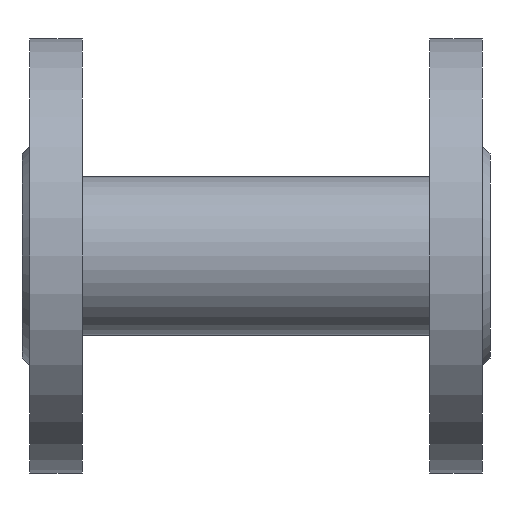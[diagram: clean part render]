
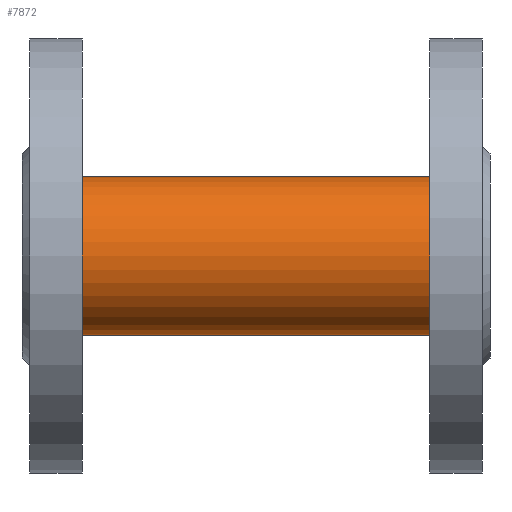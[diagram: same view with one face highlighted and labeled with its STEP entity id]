
A CAD part, front view. The second image highlights one B-rep face of the part: STEP entity #7872.
In plain terms, the highlighted cylindrical face has radius 21 mm (diameter 42 mm), a full revolution.
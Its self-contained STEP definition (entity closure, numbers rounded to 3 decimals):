
#2675=LINE('',#36084,#4655);
#2676=LINE('',#36090,#4656);
#4655=VECTOR('',#29485,1.);
#4656=VECTOR('',#29490,1.);
#6874=ELLIPSE('',#27261,29.698,21.);
#6875=ELLIPSE('',#27262,29.698,21.);
#6876=ELLIPSE('',#27263,29.698,21.);
#6877=ELLIPSE('',#27264,29.698,21.);
#7422=CYLINDRICAL_SURFACE('',#27267,21.);
#7872=ADVANCED_FACE('',(#10300,#10301,#10302),#7422,.T.);
#10300=FACE_BOUND('',#11118,.T.);
#10301=FACE_BOUND('',#11119,.T.);
#10302=FACE_BOUND('',#11120,.T.);
#11118=EDGE_LOOP('',(#13162,#13163,#13164,#13165,#13166,#13167));
#11119=EDGE_LOOP('',(#13168));
#11120=EDGE_LOOP('',(#13169));
#13162=ORIENTED_EDGE('',*,*,#22786,.T.);
#13163=ORIENTED_EDGE('',*,*,#22787,.T.);
#13164=ORIENTED_EDGE('',*,*,#22788,.T.);
#13165=ORIENTED_EDGE('',*,*,#22789,.T.);
#13166=ORIENTED_EDGE('',*,*,#22790,.T.);
#13167=ORIENTED_EDGE('',*,*,#22791,.T.);
#13168=ORIENTED_EDGE('',*,*,#22792,.F.);
#13169=ORIENTED_EDGE('',*,*,#22793,.F.);
#20344=VERTEX_POINT('',#36080);
#20345=VERTEX_POINT('',#36081);
#20346=VERTEX_POINT('',#36083);
#20347=VERTEX_POINT('',#36085);
#20348=VERTEX_POINT('',#36087);
#20349=VERTEX_POINT('',#36089);
#20350=VERTEX_POINT('',#36092);
#20351=VERTEX_POINT('',#36094);
#22786=EDGE_CURVE('',#20344,#20345,#6874,.T.);
#22787=EDGE_CURVE('',#20345,#20346,#6875,.T.);
#22788=EDGE_CURVE('',#20346,#20347,#2675,.T.);
#22789=EDGE_CURVE('',#20347,#20348,#6876,.T.);
#22790=EDGE_CURVE('',#20348,#20349,#6877,.T.);
#22791=EDGE_CURVE('',#20349,#20344,#2676,.T.);
#22792=EDGE_CURVE('',#20350,#20350,#26384,.T.);
#22793=EDGE_CURVE('',#20351,#20351,#26385,.T.);
#26384=CIRCLE('',#27265,21.);
#26385=CIRCLE('',#27266,21.);
#27261=AXIS2_PLACEMENT_3D('',#36079,#29481,#29482);
#27262=AXIS2_PLACEMENT_3D('',#36082,#29483,#29484);
#27263=AXIS2_PLACEMENT_3D('',#36086,#29486,#29487);
#27264=AXIS2_PLACEMENT_3D('',#36088,#29488,#29489);
#27265=AXIS2_PLACEMENT_3D('',#36091,#29491,#29492);
#27266=AXIS2_PLACEMENT_3D('',#36093,#29493,#29494);
#27267=AXIS2_PLACEMENT_3D('',#36095,#29495,#29496);
#29481=DIRECTION('',(-0.707,-0.707,0.));
#29482=DIRECTION('',(-0.707,0.707,0.));
#29483=DIRECTION('',(-0.707,-0.707,0.));
#29484=DIRECTION('',(-0.707,0.707,0.));
#29485=DIRECTION('',(1.,0.,0.));
#29486=DIRECTION('',(0.707,-0.707,0.));
#29487=DIRECTION('',(-0.707,-0.707,0.));
#29488=DIRECTION('',(0.707,-0.707,0.));
#29489=DIRECTION('',(-0.707,-0.707,0.));
#29490=DIRECTION('',(-1.,0.,0.));
#29491=DIRECTION('',(1.,0.,0.));
#29492=DIRECTION('',(0.,0.,1.));
#29493=DIRECTION('',(-1.,0.,0.));
#29494=DIRECTION('',(0.,0.,-1.));
#29495=DIRECTION('',(-1.,0.,0.));
#29496=DIRECTION('',(0.,0.,1.));
#36079=CARTESIAN_POINT('',(40.,-17.49,580.5));
#36080=CARTESIAN_POINT('',(20.,2.51,586.903));
#36081=CARTESIAN_POINT('',(19.,3.51,580.5));
#36082=CARTESIAN_POINT('',(40.,-17.49,580.5));
#36083=CARTESIAN_POINT('',(20.,2.51,574.097));
#36084=CARTESIAN_POINT('',(76.,2.51,574.097));
#36085=CARTESIAN_POINT('',(70.,2.51,574.097));
#36086=CARTESIAN_POINT('',(50.,-17.49,580.5));
#36087=CARTESIAN_POINT('',(71.,3.51,580.5));
#36088=CARTESIAN_POINT('',(50.,-17.49,580.5));
#36089=CARTESIAN_POINT('',(70.,2.51,586.903));
#36090=CARTESIAN_POINT('',(76.,2.51,586.903));
#36091=CARTESIAN_POINT('',(91.,-17.49,580.5));
#36092=CARTESIAN_POINT('',(91.,-17.49,601.5));
#36093=CARTESIAN_POINT('',(-1.,-17.49,580.5));
#36094=CARTESIAN_POINT('',(-1.,-17.49,559.5));
#36095=CARTESIAN_POINT('',(76.,-17.49,580.5));
